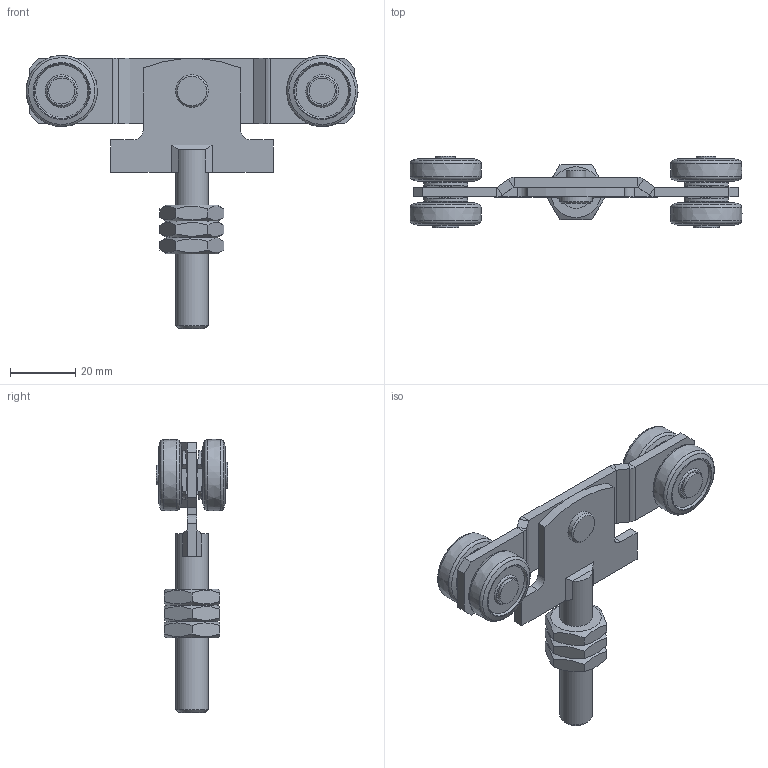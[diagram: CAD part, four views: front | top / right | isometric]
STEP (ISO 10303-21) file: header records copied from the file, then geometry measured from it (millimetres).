
FILE_DESCRIPTION(/* description */ ('Doppelrolle mit Schraub Nr.0'),/* implementation_level */ '2;1');
FILE_NAME(/* name */ 'Q:\sge-ma\Produktmanagement-STB\STB\Workspace\stp\010336970.stp',/* time_stamp */ '2016-07-14T09:38:38+02:00',/* author */ ('avschreier'),/* organization */ (''),/* preprocessor_version */ 'ST-DEVELOPER v16.1',/* originating_system */ 'Autodesk Inventor 2016',/* authorisation */ '');
FILE_SCHEMA (('AUTOMOTIVE_DESIGN { 1 0 10303 214 3 1 1 }'));
Length unit declared in the file: millimetre
Products named in the file (10): 010336970_Schweißnähte; 000302037; 337000122; 000302017; 336290000; 000303234; 000304010; DIN_EN_ISO_4035-M10_en; 000302243; 010336970
Assembly tree (18 placements, depth 2):
  010336970
    010336970_Schweißnähte
    000302037
    337000122
    000302017
    336290000  x4
    000303234  x4
    000304010  x2
    DIN_EN_ISO_4035-M10_en  x3
    000302243
Bounding box: 101.95 x 22 x 84 mm (x, y, z)
Volume: 26977.5 mm3; surface area: 19693.2 mm2
Topology: 19 solids, 19 shells, 279 faces, 613 edges, 387 vertices
Faces by surface type: plane 170, cone 50, cylinder 45, torus 10, bspline 4
Full cylindrical faces by diameter (mm): 6 x7, 6.1 x5, 6.4 x1, 8 x2, 8.376 x3, 10 x2
Entity records: 4174 total; most frequent: CARTESIAN_POINT 749, DIRECTION 710, ORIENTED_EDGE 584, EDGE_CURVE 292, AXIS2_PLACEMENT_3D 264, VERTEX_POINT 197, EDGE_LOOP 195, LINE 182
